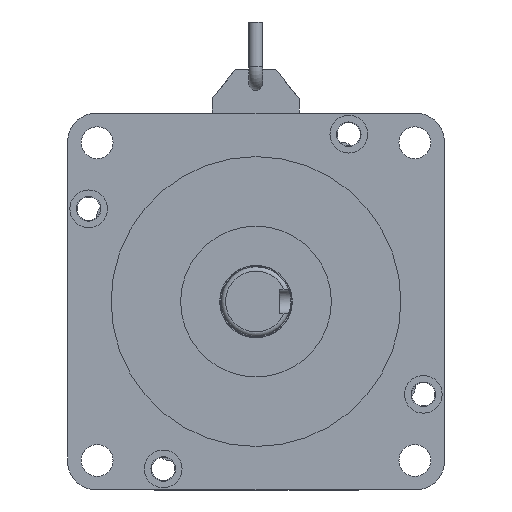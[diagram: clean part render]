
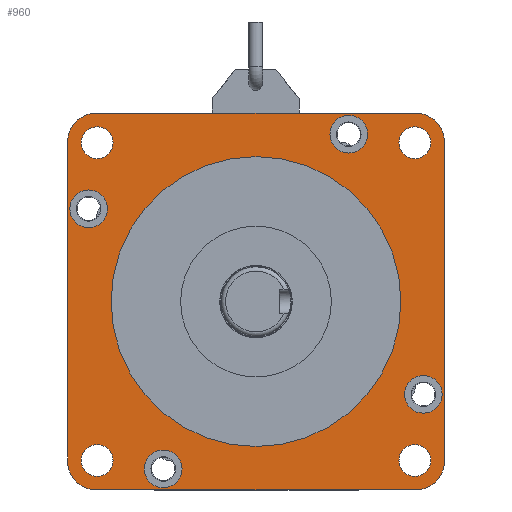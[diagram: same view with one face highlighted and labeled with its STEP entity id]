
A CAD part, front view. The second image highlights one B-rep face of the part: STEP entity #960.
In plain terms, the highlighted planar face has unit normal (0, -1, 0).
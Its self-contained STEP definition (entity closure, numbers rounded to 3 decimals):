
#960=ADVANCED_FACE('',(#3285,#3286,#3287,#3288,#3289,#3290,#3291,#3292,
#3293,#3294),#1276,.T.);
#1276=PLANE('',#8758);
#2117=LINE('',#13292,#2979);
#2124=LINE('',#13306,#2986);
#2131=LINE('',#13320,#2993);
#2138=LINE('',#13334,#3000);
#2979=VECTOR('',#10678,1.);
#2986=VECTOR('',#10687,1.);
#2993=VECTOR('',#10696,1.);
#3000=VECTOR('',#10705,1.);
#3285=FACE_BOUND('',#3895,.T.);
#3286=FACE_BOUND('',#3896,.T.);
#3287=FACE_BOUND('',#3897,.T.);
#3288=FACE_BOUND('',#3898,.T.);
#3289=FACE_BOUND('',#3899,.T.);
#3290=FACE_BOUND('',#3900,.T.);
#3291=FACE_BOUND('',#3901,.T.);
#3292=FACE_BOUND('',#3902,.T.);
#3293=FACE_BOUND('',#3903,.T.);
#3294=FACE_BOUND('',#3904,.T.);
#3895=EDGE_LOOP('',(#5976));
#3896=EDGE_LOOP('',(#5977));
#3897=EDGE_LOOP('',(#5978));
#3898=EDGE_LOOP('',(#5979));
#3899=EDGE_LOOP('',(#5980));
#3900=EDGE_LOOP('',(#5981));
#3901=EDGE_LOOP('',(#5982));
#3902=EDGE_LOOP('',(#5983));
#3903=EDGE_LOOP('',(#5984));
#3904=EDGE_LOOP('',(#5985,#5986,#5987,#5988,#5989,#5990,#5991,#5992));
#5976=ORIENTED_EDGE('',*,*,#7923,.T.);
#5977=ORIENTED_EDGE('',*,*,#7921,.T.);
#5978=ORIENTED_EDGE('',*,*,#7919,.T.);
#5979=ORIENTED_EDGE('',*,*,#7917,.T.);
#5980=ORIENTED_EDGE('',*,*,#7908,.T.);
#5981=ORIENTED_EDGE('',*,*,#7906,.T.);
#5982=ORIENTED_EDGE('',*,*,#7904,.T.);
#5983=ORIENTED_EDGE('',*,*,#7910,.T.);
#5984=ORIENTED_EDGE('',*,*,#7926,.T.);
#5985=ORIENTED_EDGE('',*,*,#7888,.F.);
#5986=ORIENTED_EDGE('',*,*,#7897,.T.);
#5987=ORIENTED_EDGE('',*,*,#7895,.F.);
#5988=ORIENTED_EDGE('',*,*,#7903,.T.);
#5989=ORIENTED_EDGE('',*,*,#7874,.F.);
#5990=ORIENTED_EDGE('',*,*,#7901,.T.);
#5991=ORIENTED_EDGE('',*,*,#7881,.F.);
#5992=ORIENTED_EDGE('',*,*,#7899,.T.);
#6812=VERTEX_POINT('',#13281);
#6817=VERTEX_POINT('',#13291);
#6818=VERTEX_POINT('',#13295);
#6823=VERTEX_POINT('',#13305);
#6824=VERTEX_POINT('',#13309);
#6829=VERTEX_POINT('',#13319);
#6830=VERTEX_POINT('',#13323);
#6835=VERTEX_POINT('',#13333);
#6836=VERTEX_POINT('',#13349);
#6838=VERTEX_POINT('',#13354);
#6840=VERTEX_POINT('',#13359);
#6842=VERTEX_POINT('',#13364);
#6849=VERTEX_POINT('',#13383);
#6851=VERTEX_POINT('',#13388);
#6853=VERTEX_POINT('',#13393);
#6855=VERTEX_POINT('',#13398);
#6858=VERTEX_POINT('',#13407);
#7874=EDGE_CURVE('',#6817,#6812,#2117,.T.);
#7881=EDGE_CURVE('',#6823,#6818,#2124,.T.);
#7888=EDGE_CURVE('',#6829,#6824,#2131,.T.);
#7895=EDGE_CURVE('',#6835,#6830,#2138,.T.);
#7897=EDGE_CURVE('',#6829,#6830,#8131,.T.);
#7899=EDGE_CURVE('',#6823,#6824,#8133,.T.);
#7901=EDGE_CURVE('',#6817,#6818,#8135,.T.);
#7903=EDGE_CURVE('',#6835,#6812,#8137,.T.);
#7904=EDGE_CURVE('',#6836,#6836,#8138,.T.);
#7906=EDGE_CURVE('',#6838,#6838,#8140,.T.);
#7908=EDGE_CURVE('',#6840,#6840,#8142,.T.);
#7910=EDGE_CURVE('',#6842,#6842,#8144,.T.);
#7917=EDGE_CURVE('',#6849,#6849,#8151,.T.);
#7919=EDGE_CURVE('',#6851,#6851,#8153,.T.);
#7921=EDGE_CURVE('',#6853,#6853,#8155,.T.);
#7923=EDGE_CURVE('',#6855,#6855,#8157,.T.);
#7926=EDGE_CURVE('',#6858,#6858,#8160,.T.);
#8131=CIRCLE('',#8709,10.);
#8133=CIRCLE('',#8712,10.);
#8135=CIRCLE('',#8715,10.);
#8137=CIRCLE('',#8718,10.);
#8138=CIRCLE('',#8720,5.5);
#8140=CIRCLE('',#8723,5.5);
#8142=CIRCLE('',#8726,5.5);
#8144=CIRCLE('',#8729,5.5);
#8151=CIRCLE('',#8741,6.5);
#8153=CIRCLE('',#8744,6.5);
#8155=CIRCLE('',#8747,6.5);
#8157=CIRCLE('',#8750,6.5);
#8160=CIRCLE('',#8756,50.);
#8709=AXIS2_PLACEMENT_3D('',#13337,#10710,#10711);
#8712=AXIS2_PLACEMENT_3D('',#13340,#10716,#10717);
#8715=AXIS2_PLACEMENT_3D('',#13343,#10722,#10723);
#8718=AXIS2_PLACEMENT_3D('',#13346,#10728,#10729);
#8720=AXIS2_PLACEMENT_3D('',#13348,#10732,#10733);
#8723=AXIS2_PLACEMENT_3D('',#13353,#10738,#10739);
#8726=AXIS2_PLACEMENT_3D('',#13358,#10744,#10745);
#8729=AXIS2_PLACEMENT_3D('',#13363,#10750,#10751);
#8741=AXIS2_PLACEMENT_3D('',#13382,#10774,#10775);
#8744=AXIS2_PLACEMENT_3D('',#13387,#10780,#10781);
#8747=AXIS2_PLACEMENT_3D('',#13392,#10786,#10787);
#8750=AXIS2_PLACEMENT_3D('',#13397,#10792,#10793);
#8756=AXIS2_PLACEMENT_3D('',#13406,#10804,#10805);
#8758=AXIS2_PLACEMENT_3D('',#13409,#10808,#10809);
#10678=DIRECTION('',(0.,0.,1.));
#10687=DIRECTION('',(-1.,0.,0.));
#10696=DIRECTION('',(0.,0.,-1.));
#10705=DIRECTION('',(1.,0.,0.));
#10710=DIRECTION('',(0.,-1.,0.));
#10711=DIRECTION('',(-1.,0.,0.));
#10716=DIRECTION('',(0.,-1.,0.));
#10717=DIRECTION('',(-1.,0.,0.));
#10722=DIRECTION('',(0.,-1.,0.));
#10723=DIRECTION('',(-1.,0.,0.));
#10728=DIRECTION('',(0.,-1.,0.));
#10729=DIRECTION('',(-1.,0.,0.));
#10732=DIRECTION('',(0.,1.,0.));
#10733=DIRECTION('',(0.,0.,1.));
#10738=DIRECTION('',(0.,1.,0.));
#10739=DIRECTION('',(-1.,0.,0.));
#10744=DIRECTION('',(0.,1.,0.));
#10745=DIRECTION('',(0.,0.,-1.));
#10750=DIRECTION('',(0.,1.,0.));
#10751=DIRECTION('',(1.,0.,0.));
#10774=DIRECTION('',(0.,1.,0.));
#10775=DIRECTION('',(0.,0.,1.));
#10780=DIRECTION('',(0.,1.,0.));
#10781=DIRECTION('',(-1.,0.,0.));
#10786=DIRECTION('',(0.,1.,0.));
#10787=DIRECTION('',(0.,0.,-1.));
#10792=DIRECTION('',(0.,1.,0.));
#10793=DIRECTION('',(1.,0.,0.));
#10804=DIRECTION('',(0.,1.,0.));
#10805=DIRECTION('',(-1.,0.,0.));
#10808=DIRECTION('',(0.,-1.,0.));
#10809=DIRECTION('',(-1.,0.,0.));
#13281=CARTESIAN_POINT('',(118.536,-994.118,102.721));
#13291=CARTESIAN_POINT('',(118.536,-994.118,-7.279));
#13292=CARTESIAN_POINT('',(118.536,-994.118,47.721));
#13295=CARTESIAN_POINT('',(128.536,-994.118,-17.279));
#13305=CARTESIAN_POINT('',(238.536,-994.118,-17.279));
#13306=CARTESIAN_POINT('',(183.536,-994.118,-17.279));
#13309=CARTESIAN_POINT('',(248.536,-994.118,-7.279));
#13319=CARTESIAN_POINT('',(248.536,-994.118,102.721));
#13320=CARTESIAN_POINT('',(248.536,-994.118,47.721));
#13323=CARTESIAN_POINT('',(238.536,-994.118,112.721));
#13333=CARTESIAN_POINT('',(128.536,-994.118,112.721));
#13334=CARTESIAN_POINT('',(183.536,-994.118,112.721));
#13337=CARTESIAN_POINT('',(238.536,-994.118,102.721));
#13340=CARTESIAN_POINT('',(238.536,-994.118,-7.279));
#13343=CARTESIAN_POINT('',(128.536,-994.118,-7.279));
#13346=CARTESIAN_POINT('',(128.536,-994.118,102.721));
#13348=CARTESIAN_POINT('',(238.337,-994.118,102.522));
#13349=CARTESIAN_POINT('',(238.337,-994.118,108.022));
#13353=CARTESIAN_POINT('',(128.736,-994.118,102.522));
#13354=CARTESIAN_POINT('',(123.236,-994.118,102.522));
#13358=CARTESIAN_POINT('',(128.736,-994.118,-7.079));
#13359=CARTESIAN_POINT('',(128.736,-994.118,-12.579));
#13363=CARTESIAN_POINT('',(238.337,-994.118,-7.079));
#13364=CARTESIAN_POINT('',(243.837,-994.118,-7.079));
#13382=CARTESIAN_POINT('',(241.261,-994.118,15.724));
#13383=CARTESIAN_POINT('',(241.261,-994.118,22.224));
#13387=CARTESIAN_POINT('',(215.534,-994.118,105.446));
#13388=CARTESIAN_POINT('',(209.034,-994.118,105.446));
#13392=CARTESIAN_POINT('',(125.811,-994.118,79.719));
#13393=CARTESIAN_POINT('',(125.811,-994.118,73.219));
#13397=CARTESIAN_POINT('',(151.539,-994.118,-10.004));
#13398=CARTESIAN_POINT('',(158.039,-994.118,-10.004));
#13406=CARTESIAN_POINT('',(183.536,-994.118,47.721));
#13407=CARTESIAN_POINT('',(133.536,-994.118,47.721));
#13409=CARTESIAN_POINT('',(183.536,-994.118,47.721));
